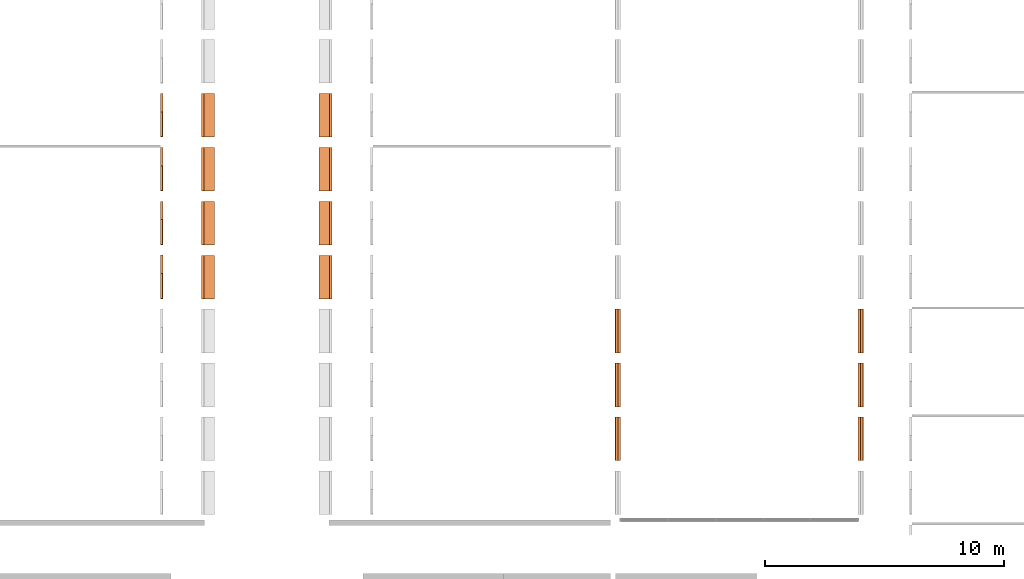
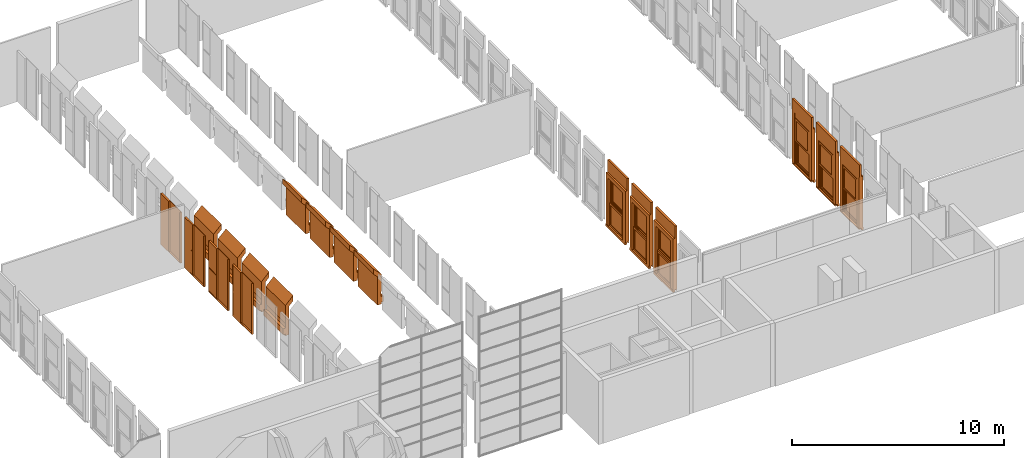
# One storey, part 12 of 16: 18 proxies.
"""IFC2X3 building model written with IfcOpenShell, lengths in millimetres."""

from ifc_helpers import new_model, entity, si_unit, converted_unit, derived_unit, direction, frame, frame_2d, origin, origin_2d_with_axis, place, context, subcontext, project, spatial, polyline, rectangle, outline, extrude, source, transform, mapped, material, material_list, type_object, type_shapes, element, save


model = new_model("IFC2X3")

# Units and contexts
model_context = context("Model", 3, precision=0.01, world=origin(), true_north=direction((6.12303176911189e-17, 1.0)))
body_context = subcontext(model_context, "Body", "Model", "MODEL_VIEW")
ifc_project = project(units=[si_unit("LENGTHUNIT", "METRE", prefix="MILLI"), si_unit("AREAUNIT", "SQUARE_METRE"), si_unit("VOLUMEUNIT", "CUBIC_METRE"), converted_unit("PLANEANGLEUNIT", "DEGREE", entity("IfcRatioMeasure", 0.0174532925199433), si_unit("PLANEANGLEUNIT", "RADIAN"), dimensions=[0, 0, 0, 0, 0, 0, 0]), si_unit("MASSUNIT", "GRAM", prefix="KILO"), derived_unit("MASSDENSITYUNIT", [(si_unit("MASSUNIT", "GRAM", prefix="KILO"), 1), (si_unit("LENGTHUNIT", "METRE"), -3)]), derived_unit("MOMENTOFINERTIAUNIT", [(si_unit("LENGTHUNIT", "METRE"), 4)]), si_unit("TIMEUNIT", "SECOND"), si_unit("FREQUENCYUNIT", "HERTZ"), si_unit("THERMODYNAMICTEMPERATUREUNIT", "DEGREE_CELSIUS"), derived_unit("THERMALTRANSMITTANCEUNIT", [(si_unit("MASSUNIT", "GRAM", prefix="KILO"), 1), (si_unit("THERMODYNAMICTEMPERATUREUNIT", "KELVIN"), -1), (si_unit("TIMEUNIT", "SECOND"), -3)]), derived_unit("VOLUMETRICFLOWRATEUNIT", [(si_unit("LENGTHUNIT", "METRE"), 3), (si_unit("TIMEUNIT", "SECOND"), -1)]), si_unit("ELECTRICCURRENTUNIT", "AMPERE"), si_unit("ELECTRICVOLTAGEUNIT", "VOLT"), si_unit("POWERUNIT", "WATT"), si_unit("FORCEUNIT", "NEWTON", prefix="KILO"), si_unit("ILLUMINANCEUNIT", "LUX"), si_unit("LUMINOUSFLUXUNIT", "LUMEN"), si_unit("LUMINOUSINTENSITYUNIT", "CANDELA"), derived_unit("USERDEFINED", [(si_unit("MASSUNIT", "GRAM", prefix="KILO"), -1), (si_unit("LENGTHUNIT", "METRE"), -2), (si_unit("TIMEUNIT", "SECOND"), 3), (si_unit("LUMINOUSFLUXUNIT", "LUMEN"), 1)]), derived_unit("LINEARVELOCITYUNIT", [(si_unit("LENGTHUNIT", "METRE"), 1), (si_unit("TIMEUNIT", "SECOND"), -1)]), si_unit("PRESSUREUNIT", "PASCAL"), derived_unit("USERDEFINED", [(si_unit("LENGTHUNIT", "METRE"), -2), (si_unit("MASSUNIT", "GRAM", prefix="KILO"), 1), (si_unit("TIMEUNIT", "SECOND"), -2)]), derived_unit("LINEARFORCEUNIT", [(si_unit("MASSUNIT", "GRAM", prefix="KILO"), 1), (si_unit("LENGTHUNIT", "METRE"), 1), (si_unit("TIMEUNIT", "SECOND"), -2), (si_unit("LENGTHUNIT", "METRE"), -1)]), derived_unit("PLANARFORCEUNIT", [(si_unit("MASSUNIT", "GRAM", prefix="KILO"), 1), (si_unit("LENGTHUNIT", "METRE"), 1), (si_unit("TIMEUNIT", "SECOND"), -2), (si_unit("LENGTHUNIT", "METRE"), -2)])], contexts=[model_context])

# Site, building, storey
site_placement = place(None, frame((10627.5135316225, 21939.0796949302, 0.0)))
site = spatial("IfcSite", under=ifc_project, at=site_placement, Name="Default", CompositionType="ELEMENT")
building_placement = place(site_placement, origin())
building = spatial("IfcBuilding", under=site, at=building_placement, CompositionType="ELEMENT")
storey_placement = place(building_placement, frame((0.0, 0.0, 3660.0)))
storey = spatial("IfcBuildingStorey", under=building, at=storey_placement, Name="R+1", CompositionType="ELEMENT", Elevation=3660.0)

# Proxies
ifc_material_1 = material(Name="PVC, Flexible")
ifc_material_2 = material(Name="Glass")
ifc_material_list_1 = material_list([ifc_material_1, ifc_material_2])
building_element_proxy_type_1 = type_object("IfcBuildingElementProxyType", Name="FENETRE.dwg:Fenetre ext 296+70", PredefinedType="NOTDEFINED", material=ifc_material_1)
shared_shape_1 = source(origin(), body_context, "Body", "SweptSolid", [
    extrude(rectangle(XDim=1829.99999999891, YDim=112.500043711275, at=origin_2d_with_axis()), frame((-10.4189092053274, 56.2500218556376, 2960.0), z_axis=(0.0, 0.0, 1.0), x_axis=(-1.0, 0.0, 0.0)), (0.0, 0.0, 1.0), 700.0),
    extrude(outline(polyline([(-68.5678005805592, -14.3879872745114), (-72.4883397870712, -33.9999574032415), (-67.5853472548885, -34.9800922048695), (-63.9024543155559, -16.5569155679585), (44.3087537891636, -16.5569155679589), (54.1101018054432, 32.4730097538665), (40.6268723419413, 35.1683804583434), (40.1368049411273, 32.7168841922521), (51.168538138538, 30.5115808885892), (42.1928709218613, -14.3879872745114), (-68.5678005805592, -14.3879872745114)])), frame((-925.418909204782, 66.917049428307, -47.5499763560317), z_axis=(-1.0, 0.0, 0.0), x_axis=(0.0, 0.980598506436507, -0.196026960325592)), (0.0, 0.0, -1.0), 1829.99999999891),
    extrude(outline(polyline([(-64.667066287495, -56.2500218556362), (66.1666874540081, -56.2500218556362), (66.1666874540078, 56.2500218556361), (-67.6663086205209, 56.2500218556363), (-64.667066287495, -56.2500218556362)])), frame((-925.418909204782, -56.2500218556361, -63.833312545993), z_axis=(1.0, 0.0, 0.0), x_axis=(0.0, 0.0, -1.0)), (0.0, 0.0, 1.0), 1829.99999999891),
    extrude(outline(polyline([(-55.5555555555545, 97.0007159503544), (-55.5555555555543, -5.85738417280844), (-55.5555555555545, -95.357341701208), (-45.5555555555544, -95.3573417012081), (-45.5555555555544, -105.357341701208), (174.444444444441, -105.357341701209), (174.444444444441, 106.642659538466), (-45.5555555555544, 106.642659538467), (-45.5555555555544, 97.0007159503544), (-55.5555555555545, 97.0007159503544)])), frame((849.025535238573, 5.85738417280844, 0.0), z_axis=(0.0, 0.0, -1.0), x_axis=(-1.0, 0.0, 0.0)), (0.0, 0.0, -1.0), 2960.0),
    extrude(rectangle(XDim=199.499957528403, YDim=1369.99999999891, at=origin_2d_with_axis()), frame((-10.4189092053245, 0.250021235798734, 2730.0), z_axis=(0.0, 0.0, 1.0), x_axis=(0.0, 1.0, 0.0)), (0.0, 0.0, 1.0), 230.000000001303),
    extrude(outline(polyline([(-97.0007159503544, -55.5555555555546), (5.85738417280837, -55.5555555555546), (95.357341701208, -55.5555555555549), (95.357341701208, -45.5555555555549), (105.357341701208, -45.5555555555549), (105.357341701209, 174.44444444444), (-106.642659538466, 174.444444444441), (-106.642659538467, -45.5555555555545), (-97.0007159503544, -45.5555555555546), (-97.0007159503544, -55.5555555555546)])), frame((-869.863353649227, 5.85738417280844, 0.0), z_axis=(0.0, 0.0, 1.0), x_axis=(0.0, -1.0, 0.0)), (0.0, 0.0, 1.0), 2960.0),
    extrude(rectangle(XDim=1.0, YDim=1079.99999999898, at=origin_2d_with_axis()), frame((-10.4189092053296, -19.5, 130.0), z_axis=(0.0, 0.0, 1.0), x_axis=(0.0, 1.0, 0.0)), (0.0, 0.0, 1.0), 1120.00000000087),
    extrude(rectangle(XDim=1.0, YDim=1079.99999999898, at=frame_2d((-4.21884749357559e-15, 0.0), x_axis=(1.0, 0.0))), frame((-10.4189092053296, -30.5, 130.0), z_axis=(0.0, 0.0, 1.0), x_axis=(0.0, 1.0, 0.0)), (0.0, 0.0, 1.0), 1120.00000000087),
    extrude(rectangle(XDim=1.0, YDim=1079.99999999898, at=frame_2d((-4.21884749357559e-15, 0.0), x_axis=(1.0, 0.0))), frame((-10.4189092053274, 69.5, 1465.0), z_axis=(0.0, 0.0, 1.0), x_axis=(0.0, 1.0, 0.0)), (0.0, 0.0, 1.0), 1120.0),
    extrude(rectangle(XDim=0.999999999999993, YDim=1079.99999999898, at=frame_2d((-8.46545056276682e-15, 0.0), x_axis=(1.0, 0.0))), frame((-10.4189092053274, 80.5, 1465.0), z_axis=(0.0, 0.0, 1.0), x_axis=(0.0, 1.0, 0.0)), (0.0, 0.0, 1.0), 1120.00000000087),
    extrude(outline(polyline([(-685.0, -1365.0), (0.0, -1365.0), (685.0, -1365.0), (685.0, 1365.0), (0.0, 1365.0), (-685.0, 1365.0), (-685.0, -1365.0)]), holes=[polyline([(-640.0, -1320.0), (-640.0, -45.0), (0.0, -45.0), (640.0, -45.0), (640.0, -1320.0), (0.0, -1320.0), (-640.0, -1320.0)]), polyline([(-640.0, 40.0), (-640.0, 1315.0), (0.0, 1315.0), (640.0, 1315.0), (640.0, 40.0), (0.0, 40.0), (-640.0, 40.0)])]), frame((-10.4189092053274, 0.0, 1365.0), z_axis=(0.0, 1.0, 0.0), x_axis=(1.0, 0.0, 0.0)), (0.0, 0.0, 1.0), 50.0),
    extrude(outline(polyline([(-655.0, -667.500000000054), (655.0, -667.500000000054), (655.0, 667.500000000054), (-655.0, 667.500000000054), (-655.0, -667.500000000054)]), holes=[polyline([(-540.0, 552.500000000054), (540.0, 552.500000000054), (540.0, -567.500000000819), (-540.0, -567.500000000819), (-540.0, 552.500000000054)])]), frame((-10.4189092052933, -50.0, 697.500000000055), z_axis=(0.0, 1.0, 0.0), x_axis=(-1.0, 0.0, 0.0)), (0.0, 0.0, 1.0), 50.0),
    extrude(outline(polyline([(-655.0, -667.500000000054), (655.0, -667.500000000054), (655.0, 667.500000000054), (-655.0, 667.500000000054), (-655.0, -667.500000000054)]), holes=[polyline([(-540.0, 552.500000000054), (540.0, 552.500000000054), (540.0, -567.500000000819), (-540.0, -567.500000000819), (-540.0, 552.500000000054)])]), frame((-10.4189092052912, 50.0, 2032.50000000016), z_axis=(0.0, 1.0, 0.0), x_axis=(-1.0, 0.0, 0.0)), (0.0, 0.0, 1.0), 50.0),
])
type_shapes(building_element_proxy_type_1, [shared_shape_1])
proxy_1_placement = place(storey_placement, frame((51469.9865120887, -7238.66078572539, 0.0), z_axis=(0.0, 0.0, 1.0), x_axis=(0.0, 1.0, 0.0)))
element("IfcBuildingElementProxy", 1, at=proxy_1_placement, inside=storey, type_object=building_element_proxy_type_1, material=ifc_material_list_1, Name="FENETRE.dwg:Fenetre ext 296+70", ObjectType="FENETRE.dwg:Fenetre ext 296+70", context=body_context, shape_type="MappedRepresentation", body=[
    mapped(shared_shape_1, transform((0.0, 0.0, 0.0), scale=1.0)),
])
ifc_material_list_2 = material_list([ifc_material_1, ifc_material_2])
proxy_2_placement = place(storey_placement, frame((51469.9865120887, -9498.66078572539, 0.0), z_axis=(0.0, 0.0, 1.0), x_axis=(0.0, 1.0, 0.0)))
element("IfcBuildingElementProxy", 2, at=proxy_2_placement, inside=storey, type_object=building_element_proxy_type_1, material=ifc_material_list_2, Name="FENETRE.dwg:Fenetre ext 296+70", ObjectType="FENETRE.dwg:Fenetre ext 296+70", context=body_context, shape_type="MappedRepresentation", body=[
    mapped(shared_shape_1, transform((0.0, 0.0, 0.0), scale=1.0)),
])
ifc_material_list_3 = material_list([ifc_material_1, ifc_material_2])
proxy_3_placement = place(storey_placement, frame((51469.9865120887, -11758.6607857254, 0.0), z_axis=(0.0, 0.0, 1.0), x_axis=(0.0, 1.0, 0.0)))
element("IfcBuildingElementProxy", 3, at=proxy_3_placement, inside=storey, type_object=building_element_proxy_type_1, material=ifc_material_list_3, Name="FENETRE.dwg:Fenetre ext 296+70", ObjectType="FENETRE.dwg:Fenetre ext 296+70", context=body_context, shape_type="MappedRepresentation", body=[
    mapped(shared_shape_1, transform((0.0, 0.0, 0.0), scale=1.0)),
])
ifc_material_list_4 = material_list([ifc_material_1, ifc_material_2])
building_element_proxy_type_2 = type_object("IfcBuildingElementProxyType", Name="FENETRE.dwg:Fenetre ext 296+70", PredefinedType="NOTDEFINED", material=ifc_material_1)
shared_shape_2 = source(origin(), body_context, "Body", "SweptSolid", [
    extrude(rectangle(XDim=112.500043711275, YDim=1829.99999999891, at=origin_2d_with_axis()), frame((-10.4189092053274, -56.2500218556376, 2960.0), z_axis=(0.0, 0.0, 1.0), x_axis=(0.0, 1.0, 0.0)), (0.0, 0.0, 1.0), 700.0),
    extrude(outline(polyline([(27.5499763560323, -64.4170494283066), (47.5499763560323, -64.4170494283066), (47.5499763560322, -59.4170494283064), (28.7622905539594, -59.4170494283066), (7.54997635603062, 46.6946996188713), (-42.4500236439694, 46.6946996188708), (-42.4500236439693, 32.9446996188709), (-39.9500236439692, 32.9446996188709), (-39.9500236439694, 44.1946996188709), (5.83789859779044, 44.1946996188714), (27.5499763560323, -64.4170494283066)])), frame((-925.418909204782, -66.917049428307, -47.5499763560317), z_axis=(1.0, 0.0, 0.0), x_axis=(0.0, 0.0, 1.0)), (0.0, 0.0, 1.0), 1829.99999999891),
    extrude(outline(polyline([(-54.506636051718, -66.1431859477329), (58.0333803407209, -66.1431859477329), (54.4666704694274, 67.6422744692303), (-57.9934147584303, 64.6440974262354), (-54.506636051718, -66.1431859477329)])), frame((-925.418909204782, 56.2500218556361, -63.833312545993), z_axis=(1.0, 0.0, 0.0), x_axis=(0.0, -0.999644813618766, 0.0266504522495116)), (0.0, 0.0, 1.0), 1829.99999999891),
    extrude(outline(polyline([(-97.0007159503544, -55.5555555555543), (5.85738417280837, -55.5555555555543), (95.357341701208, -55.5555555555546), (95.357341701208, -45.5555555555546), (105.357341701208, -45.5555555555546), (105.357341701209, 174.444444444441), (-106.642659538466, 174.444444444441), (-106.642659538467, -45.5555555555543), (-97.0007159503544, -45.5555555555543), (-97.0007159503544, -55.5555555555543)])), frame((849.025535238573, -5.85738417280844, 0.0), z_axis=(0.0, 0.0, 1.0), x_axis=(0.0, 1.0, 0.0)), (0.0, 0.0, 1.0), 2960.0),
    extrude(rectangle(XDim=1369.99999999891, YDim=199.499957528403, at=origin_2d_with_axis()), frame((-10.4189092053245, -0.250021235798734, 2730.0), z_axis=(0.0, 0.0, 1.0), x_axis=(-1.0, 0.0, 0.0)), (0.0, 0.0, 1.0), 230.000000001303),
    extrude(outline(polyline([(-55.5555555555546, 97.0007159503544), (-55.5555555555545, -5.85738417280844), (-55.5555555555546, -95.357341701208), (-45.5555555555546, -95.3573417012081), (-45.5555555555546, -105.357341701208), (174.444444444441, -105.357341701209), (174.444444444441, 106.642659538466), (-45.5555555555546, 106.642659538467), (-45.5555555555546, 97.0007159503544), (-55.5555555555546, 97.0007159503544)])), frame((-869.863353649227, -5.85738417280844, 0.0), z_axis=(0.0, 0.0, -1.0), x_axis=(1.0, 0.0, 0.0)), (0.0, 0.0, -1.0), 2960.0),
    extrude(rectangle(XDim=1079.99999999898, YDim=1.0, at=origin_2d_with_axis()), frame((-10.4189092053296, 19.5, 130.0), z_axis=(0.0, 0.0, 1.0), x_axis=(-1.0, 0.0, 0.0)), (0.0, 0.0, 1.0), 1120.00000000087),
    extrude(rectangle(XDim=1079.99999999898, YDim=1.0, at=origin_2d_with_axis()), frame((-10.4189092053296, 30.5, 130.0), z_axis=(0.0, 0.0, 1.0), x_axis=(-1.0, 0.0, 0.0)), (0.0, 0.0, 1.0), 1120.00000000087),
    extrude(rectangle(XDim=1079.99999999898, YDim=1.0, at=frame_2d((0.0, 4.21884749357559e-15), x_axis=(1.0, 0.0))), frame((-10.4189092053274, -69.5, 1465.0), z_axis=(0.0, 0.0, 1.0), x_axis=(-1.0, 0.0, 0.0)), (0.0, 0.0, 1.0), 1120.0),
    extrude(rectangle(XDim=1079.99999999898, YDim=0.999999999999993, at=frame_2d((0.0, -8.46545056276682e-15), x_axis=(1.0, 0.0))), frame((-10.4189092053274, -80.5, 1465.0), z_axis=(0.0, 0.0, 1.0), x_axis=(-1.0, 0.0, 0.0)), (0.0, 0.0, 1.0), 1120.00000000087),
    extrude(outline(polyline([(-685.0, -1365.0), (0.0, -1365.0), (685.0, -1365.0), (685.0, 1365.0), (0.0, 1365.0), (-685.0, 1365.0), (-685.0, -1365.0)]), holes=[polyline([(-640.0, -1320.0), (-640.0, -45.0), (0.0, -45.0), (640.0, -45.0), (640.0, -1320.0), (0.0, -1320.0), (-640.0, -1320.0)]), polyline([(-640.0, 40.0), (-640.0, 1315.0), (0.0, 1315.0), (640.0, 1315.0), (640.0, 40.0), (0.0, 40.0), (-640.0, 40.0)])]), frame((-10.4189092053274, -50.0, 1365.0), z_axis=(0.0, 1.0, 0.0), x_axis=(1.0, 0.0, 0.0)), (0.0, 0.0, 1.0), 50.0),
    extrude(outline(polyline([(-655.0, -667.500000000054), (655.0, -667.500000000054), (655.0, 667.500000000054), (-655.0, 667.500000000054), (-655.0, -667.500000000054)]), holes=[polyline([(-540.0, 552.500000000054), (540.0, 552.500000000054), (540.0, -567.500000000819), (-540.0, -567.500000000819), (-540.0, 552.500000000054)])]), frame((-10.4189092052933, 0.0, 697.500000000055), z_axis=(0.0, 1.0, 0.0), x_axis=(-1.0, 0.0, 0.0)), (0.0, 0.0, 1.0), 50.0),
    extrude(outline(polyline([(-655.0, -667.500000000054), (655.0, -667.500000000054), (655.0, 667.500000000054), (-655.0, 667.500000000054), (-655.0, -667.500000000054)]), holes=[polyline([(-540.0, 552.500000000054), (540.0, 552.500000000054), (540.0, -567.500000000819), (-540.0, -567.500000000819), (-540.0, 552.500000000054)])]), frame((-10.4189092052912, -100.0, 2032.50000000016), z_axis=(0.0, 1.0, 0.0), x_axis=(-1.0, 0.0, 0.0)), (0.0, 0.0, 1.0), 50.0),
])
type_shapes(building_element_proxy_type_2, [shared_shape_2])
proxy_4_placement = place(storey_placement, frame((41294.0694789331, -7238.66078572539, 0.0), z_axis=(0.0, 0.0, 1.0), x_axis=(0.0, 1.0, 0.0)))
element("IfcBuildingElementProxy", 4, at=proxy_4_placement, inside=storey, type_object=building_element_proxy_type_2, material=ifc_material_list_4, Name="FENETRE.dwg:Fenetre ext 296+70", ObjectType="FENETRE.dwg:Fenetre ext 296+70", context=body_context, shape_type="MappedRepresentation", body=[
    mapped(shared_shape_2, transform((0.0, 0.0, 0.0), scale=1.0)),
])
ifc_material_list_5 = material_list([ifc_material_1, ifc_material_2])
proxy_5_placement = place(storey_placement, frame((41294.0694789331, -9498.66078572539, 0.0), z_axis=(0.0, 0.0, 1.0), x_axis=(0.0, 1.0, 0.0)))
element("IfcBuildingElementProxy", 5, at=proxy_5_placement, inside=storey, type_object=building_element_proxy_type_2, material=ifc_material_list_5, Name="FENETRE.dwg:Fenetre ext 296+70", ObjectType="FENETRE.dwg:Fenetre ext 296+70", context=body_context, shape_type="MappedRepresentation", body=[
    mapped(shared_shape_2, transform((0.0, 0.0, 0.0), scale=1.0)),
])
ifc_material_list_6 = material_list([ifc_material_1, ifc_material_2])
proxy_6_placement = place(storey_placement, frame((41294.0694789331, -11758.6607857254, 0.0), z_axis=(0.0, 0.0, 1.0), x_axis=(0.0, 1.0, 0.0)))
element("IfcBuildingElementProxy", 6, at=proxy_6_placement, inside=storey, type_object=building_element_proxy_type_2, material=ifc_material_list_6, Name="FENETRE.dwg:Fenetre ext 296+70", ObjectType="FENETRE.dwg:Fenetre ext 296+70", context=body_context, shape_type="MappedRepresentation", body=[
    mapped(shared_shape_2, transform((0.0, 0.0, 0.0), scale=1.0)),
])
ifc_material_3 = material(Name="Plywood, Sheathing")
ifc_material_list_7 = material_list([ifc_material_3, ifc_material_2])
building_element_proxy_type_3 = type_object("IfcBuildingElementProxyType", Name="Porte noire:Porte noire", PredefinedType="NOTDEFINED", material=ifc_material_3)
shared_shape_3 = source(origin(), body_context, "Body", "SweptSolid", [
    extrude(rectangle(XDim=100.0, YDim=23.0000000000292, at=origin_2d_with_axis()), frame((-950.918997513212, -50.0, 8.73189890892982), z_axis=(0.0, 0.0, 1.0), x_axis=(0.0, 1.0, 0.0)), (0.0, 0.0, 1.0), 2933.34951039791),
    extrude(rectangle(XDim=19.0, YDim=1038.0, at=frame_2d((7.99360577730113e-15, 0.0), x_axis=(1.0, 0.0))), frame((-420.418997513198, -87.5, 43.7318989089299), z_axis=(0.0, 0.0, 1.0), x_axis=(0.0, 1.0, 0.0)), (0.0, 0.0, 1.0), 2898.5),
    extrude(rectangle(XDim=100.0, YDim=1775.0, at=origin_2d_with_axis()), frame((-51.9189975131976, -50.0, 8.73189890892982), z_axis=(0.0, 0.0, 1.0), x_axis=(0.0, 1.0, 0.0)), (0.0, 0.0, 1.0), 35.0000000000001),
    extrude(rectangle(XDim=100.0, YDim=35.0000000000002, at=origin_2d_with_axis()), frame((853.081002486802, -50.0, 8.73189890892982), z_axis=(0.0, 0.0, 1.0), x_axis=(0.0, 1.0, 0.0)), (0.0, 0.0, 1.0), 2898.5),
    extrude(rectangle(XDim=100.0, YDim=740.0, at=origin_2d_with_axis()), frame((500.581002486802, -50.0, 2907.23189890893), z_axis=(0.0, 0.0, 1.0), x_axis=(0.0, 1.0, 0.0)), (0.0, 0.0, 1.0), 35.0000000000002),
    extrude(rectangle(XDim=100.0, YDim=31.9999999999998, at=origin_2d_with_axis()), frame((114.581002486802, -50.0, 43.7318989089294), z_axis=(0.0, 0.0, 1.0), x_axis=(0.0, 1.0, 0.0)), (0.0, 0.0, 1.0), 2898.5),
    extrude(rectangle(XDim=100.0, YDim=705.0, at=origin_2d_with_axis()), frame((483.081002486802, -50.0, 1343.73189890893), z_axis=(0.0, 0.0, 1.0), x_axis=(0.0, 1.0, 0.0)), (0.0, 0.0, 1.0), 55.0),
    extrude(outline(polyline([(-352.5, -650.0), (352.5, -650.0), (352.5, 650.0), (-352.5, 650.0), (-352.5, -650.0)]), holes=[polyline([(342.5, 640.0), (342.5, -640.0), (-342.5, -640.0), (-342.5, 640.0), (342.5, 640.0)])]), frame((483.081002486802, -80.0, 693.73189890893), z_axis=(0.0, 1.0, 0.0), x_axis=(1.0, 0.0, 0.0)), (0.0, 0.0, 1.0), 70.0),
    extrude(outline(polyline([(-754.25, -352.5), (754.25, -352.5), (754.25, 352.5), (-754.25, 352.5), (-754.25, -352.5)]), holes=[polyline([(744.25, 342.5), (744.25, -342.5), (-744.25, -342.5), (-744.25, 342.5), (744.25, 342.5)])]), frame((483.081002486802, -80.0, 2152.98189890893), z_axis=(0.0, 1.0, 0.0), x_axis=(0.0, 0.0, 1.0)), (0.0, 0.0, 1.0), 70.0),
    extrude(outline(polyline([(-640.0, -342.5), (640.0, -342.5), (640.0, 342.5), (-640.0, 342.5), (-640.0, -342.5)]), holes=[polyline([(630.0, 332.5), (630.0, -332.5), (-630.0, -332.5), (-630.0, 332.5), (630.0, 332.5)])]), frame((483.081002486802, -81.0, 693.731898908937), z_axis=(0.0, 1.0, 0.0), x_axis=(0.0, 0.0, 1.0)), (0.0, 0.0, 1.0), 3.99999999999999),
    extrude(outline(polyline([(-744.25, -342.5), (744.25, -342.5), (744.25, 342.5), (-744.25, 342.5), (-744.25, -342.5)]), holes=[polyline([(734.25, 332.5), (734.25, -332.5), (-734.25, -332.5), (-734.25, 332.5), (734.25, 332.5)])]), frame((483.081002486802, -81.0, 2152.98189890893), z_axis=(0.0, 1.0, 0.0), x_axis=(0.0, 0.0, 1.0)), (0.0, 0.0, 1.0), 3.99999999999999),
    extrude(outline(polyline([(-640.0, -342.5), (640.0, -342.5), (640.0, 342.5), (-640.0, 342.5), (-640.0, -342.5)]), holes=[polyline([(630.0, 332.5), (630.0, -332.5), (-630.0, -332.5), (-630.0, 332.5), (630.0, 332.5)])]), frame((483.081002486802, -15.0, 693.782575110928), z_axis=(0.0, 1.0, 0.0), x_axis=(0.0, 0.0, 1.0)), (0.0, 0.0, 1.0), 5.0),
    extrude(outline(polyline([(-744.25, -342.5), (744.25, -342.5), (744.25, 342.5), (-744.25, 342.5), (-744.25, -342.5)]), holes=[polyline([(734.25, 332.5), (734.25, -332.5), (-734.25, -332.5), (-734.25, 332.5), (734.25, 332.5)])]), frame((483.081002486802, -15.0, 2153.03257511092), z_axis=(0.0, 1.0, 0.0), x_axis=(0.0, 0.0, 1.0)), (0.0, 0.0, 1.0), 5.0),
    extrude(rectangle(XDim=2.0, YDim=665.0, at=frame_2d((8.43769498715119e-15, 0.0), x_axis=(1.0, 0.0))), frame((483.081002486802, -79.0, 1418.73189890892), z_axis=(0.0, 0.0, 1.0), x_axis=(0.0, 1.0, 0.0)), (0.0, 0.0, 1.0), 1468.50000000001),
    extrude(rectangle(XDim=2.0, YDim=665.0, at=frame_2d((8.43769498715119e-15, 0.0), x_axis=(1.0, 0.0))), frame((483.081002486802, -79.0, 63.7318989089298), z_axis=(0.0, 0.0, 1.0), x_axis=(0.0, 1.0, 0.0)), (0.0, 0.0, 1.0), 1260.0),
    extrude(rectangle(XDim=2.0, YDim=665.0, at=frame_2d((1.0547118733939e-15, 0.0), x_axis=(1.0, 0.0))), frame((483.081002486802, -13.0, 1418.78257511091), z_axis=(0.0, 0.0, 1.0), x_axis=(0.0, 1.0, 0.0)), (0.0, 0.0, 1.0), 1468.50000000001),
    extrude(rectangle(XDim=2.0, YDim=665.0, at=frame_2d((1.0547118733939e-15, 0.0), x_axis=(1.0, 0.0))), frame((483.081002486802, -13.0, 63.7825751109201), z_axis=(0.0, 0.0, 1.0), x_axis=(0.0, 1.0, 0.0)), (0.0, 0.0, 1.0), 1260.0),
])
type_shapes(building_element_proxy_type_3, [shared_shape_3])
proxy_7_placement = place(storey_placement, frame((22127.8464640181, -4942.66069741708, 0.0), z_axis=(0.0, 0.0, 1.0), x_axis=(0.0, 1.0, 0.0)))
element("IfcBuildingElementProxy", 7, at=proxy_7_placement, inside=storey, type_object=building_element_proxy_type_3, material=ifc_material_list_7, Name="Porte noire:Porte noire", ObjectType="Porte noire:Porte noire", context=body_context, shape_type="MappedRepresentation", body=[
    mapped(shared_shape_3, transform((0.0, 0.0, 0.0), scale=1.0)),
])
ifc_material_list_8 = material_list([ifc_material_3, ifc_material_2])
proxy_8_placement = place(storey_placement, frame((22127.8464640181, -2682.66069741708, 0.0), z_axis=(0.0, 0.0, 1.0), x_axis=(0.0, 1.0, 0.0)))
element("IfcBuildingElementProxy", 8, at=proxy_8_placement, inside=storey, type_object=building_element_proxy_type_3, material=ifc_material_list_8, Name="Porte noire:Porte noire", ObjectType="Porte noire:Porte noire", context=body_context, shape_type="MappedRepresentation", body=[
    mapped(shared_shape_3, transform((0.0, 0.0, 0.0), scale=1.0)),
])
ifc_material_list_9 = material_list([ifc_material_3, ifc_material_2])
proxy_9_placement = place(storey_placement, frame((22127.8464640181, -422.660697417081, 0.0), z_axis=(0.0, 0.0, 1.0), x_axis=(0.0, 1.0, 0.0)))
element("IfcBuildingElementProxy", 9, at=proxy_9_placement, inside=storey, type_object=building_element_proxy_type_3, material=ifc_material_list_9, Name="Porte noire:Porte noire", ObjectType="Porte noire:Porte noire", context=body_context, shape_type="MappedRepresentation", body=[
    mapped(shared_shape_3, transform((0.0, 0.0, 0.0), scale=1.0)),
])
ifc_material_list_10 = material_list([ifc_material_3, ifc_material_2])
proxy_10_placement = place(storey_placement, frame((22127.8464640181, 1837.33930258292, 0.0), z_axis=(0.0, 0.0, 1.0), x_axis=(0.0, 1.0, 0.0)))
element("IfcBuildingElementProxy", 10, at=proxy_10_placement, inside=storey, type_object=building_element_proxy_type_3, material=ifc_material_list_10, Name="Porte noire:Porte noire", ObjectType="Porte noire:Porte noire", context=body_context, shape_type="MappedRepresentation", body=[
    mapped(shared_shape_3, transform((0.0, 0.0, 0.0), scale=1.0)),
])
ifc_material_4 = material(Name="Concrete, Precast Smooth, Light Grey")
building_element_proxy_type_4 = type_object("IfcBuildingElementProxyType", Name="Panneaux mediateque:Panneaux mediateque", PredefinedType="NOTDEFINED", material=ifc_material_4)
shared_shape_4 = source(origin(), body_context, "Body", "SweptSolid", [
    extrude(outline(polyline([(-998.434688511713, -508.899393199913), (-1213.39514999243, -723.859854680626), (-605.283318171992, -723.859854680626), (115.965598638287, -2.61093787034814), (101.823463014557, 11.5311977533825), (296.277827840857, 205.985562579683), (310.419963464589, 191.843426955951), (395.272229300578, 106.991161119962), (639.224068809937, 350.943000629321), (554.371802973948, 435.79526646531), (625.082466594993, 506.505930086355), (473.054508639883, 658.533888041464), (-694.378772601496, -508.899393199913), (-998.434688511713, -508.899393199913)])), frame((0.0, -203.845498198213, 800.153828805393), z_axis=(-1.0, 0.0, 0.0), x_axis=(0.0, 0.707106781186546, -0.707106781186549)), (0.0, 0.0, -1.0), 1830.0),
])
type_shapes(building_element_proxy_type_4, [shared_shape_4])
for number, where, z_axis, x_axis, name in (
    (11, (23837.4872432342, 875.920305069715, -700.0), (0.0, 0.0, 1.0), (0.0, 1.0, 0.0), "Panneaux mediateque:Panneaux mediateque"),
    (12, (23837.4872432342, -1384.07969493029, -700.0), (0.0, 0.0, 1.0), (0.0, 1.0, 0.0), "Panneaux mediateque:Panneaux mediateque"),
    (13, (23837.4872432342, -3644.07969493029, -700.0), (0.0, 0.0, 1.0), (0.0, 1.0, 0.0), "Panneaux mediateque:Panneaux mediateque"),
    (14, (23837.4872432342, -5904.07969493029, -700.0), (0.0, 0.0, 1.0), (0.0, 1.0, 0.0), "Panneaux mediateque:Panneaux mediateque"),
):
    element("IfcBuildingElementProxy", number, at=place(storey_placement, frame(where, z_axis=z_axis, x_axis=x_axis)), inside=storey, type_object=building_element_proxy_type_4, material=ifc_material_4, Name=name, ObjectType="Panneaux mediateque:Panneaux mediateque", context=body_context, shape_type="MappedRepresentation", body=[
        mapped(shared_shape_4, transform((0.0, 0.0, 0.0), scale=1.0)),
    ])
building_element_proxy_type_5 = type_object("IfcBuildingElementProxyType", Name="Panneaux mediateque:Panneaux mediateque", PredefinedType="NOTDEFINED", material=ifc_material_4)
shared_shape_5 = source(origin(), body_context, "Body", "SweptSolid", [
    extrude(outline(polyline([(1065.84615069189, -346.153726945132), (1369.84615069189, -346.153726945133), (939.84615069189, 83.8462730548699), (-80.1538493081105, 83.8462730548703), (-80.1538493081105, 63.8462730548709), (-355.15384930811, 63.8462730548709), (-355.15384930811, 83.8462730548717), (-355.15384930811, 203.845498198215), (-700.153849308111, 203.845498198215), (-700.153849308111, 83.8462730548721), (-800.153828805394, 83.8462730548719), (-800.153828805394, -131.153726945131), (850.846150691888, -131.153726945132), (1065.84615069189, -346.153726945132)])), frame((0.0, 203.845498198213, 800.153828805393), z_axis=(1.0, 0.0, 0.0), x_axis=(0.0, 0.0, 1.0)), (0.0, 0.0, 1.0), 1830.0),
])
type_shapes(building_element_proxy_type_5, [shared_shape_5])
for number, where, z_axis, x_axis, name in (
    (15, (29317.4856935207, 875.920305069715, -700.0), (0.0, 0.0, 1.0), (0.0, 1.0, 0.0), "Panneaux mediateque:Panneaux mediateque"),
    (16, (29317.4856935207, -1384.07969493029, -700.0), (0.0, 0.0, 1.0), (0.0, 1.0, 0.0), "Panneaux mediateque:Panneaux mediateque"),
    (17, (29317.4856935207, -3644.07969493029, -700.0), (0.0, 0.0, 1.0), (0.0, 1.0, 0.0), "Panneaux mediateque:Panneaux mediateque"),
    (18, (29317.4856935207, -5904.07969493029, -700.0), (0.0, 0.0, 1.0), (0.0, 1.0, 0.0), "Panneaux mediateque:Panneaux mediateque"),
):
    element("IfcBuildingElementProxy", number, at=place(storey_placement, frame(where, z_axis=z_axis, x_axis=x_axis)), inside=storey, type_object=building_element_proxy_type_5, material=ifc_material_4, Name=name, ObjectType="Panneaux mediateque:Panneaux mediateque", context=body_context, shape_type="MappedRepresentation", body=[
        mapped(shared_shape_5, transform((0.0, 0.0, 0.0), scale=1.0)),
    ])

save(model, "model.ifc")
